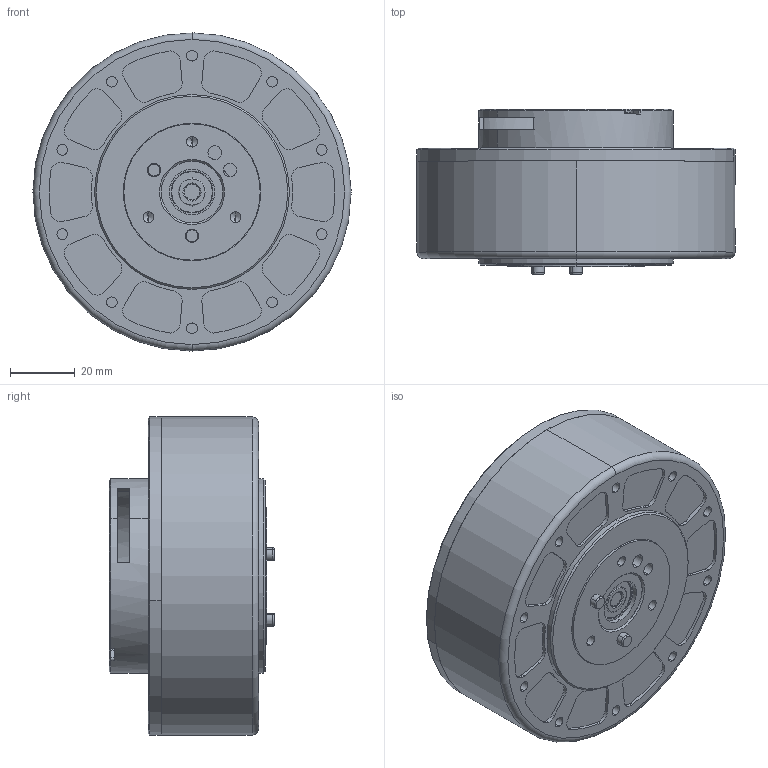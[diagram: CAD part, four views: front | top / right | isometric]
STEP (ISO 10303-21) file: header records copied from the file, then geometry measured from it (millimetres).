
FILE_DESCRIPTION (( 'STEP AP214' ), '1' );
FILE_NAME ('RMD-X8pro-P9 V2.step', '2023-12-27T05:44:35', ( '' ), ( '' ), 'SwSTEP 2.0', 'SolidWorks 2020', '' );
FILE_SCHEMA (( 'AUTOMOTIVE_DESIGN' ));
Length unit declared in the file: millimetre
Products named in the file (1): RMD-X8pro-P9 V2
Bounding box: 98 x 51 x 98 mm (x, y, z)
Volume: 68618.7 mm3; surface area: 74195.1 mm2
Topology: 21 solids, 21 shells, 1183 faces, 3200 edges, 2065 vertices
Faces by surface type: cylinder 701, plane 284, cone 100, sphere 44, torus 30, bspline 24
Entity records: 56340 total; most frequent: CARTESIAN_POINT 12840, DIRECTION 6801, ORIENTED_EDGE 6150, EDGE_CURVE 3075, AXIS2_PLACEMENT_3D 2813, VERTEX_POINT 2020, CIRCLE 1653, EDGE_LOOP 1357
